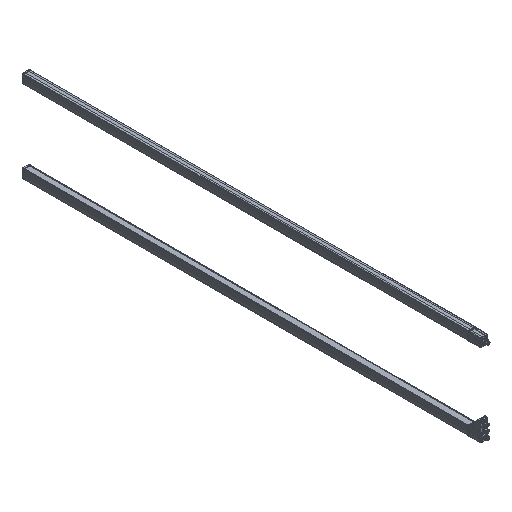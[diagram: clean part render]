
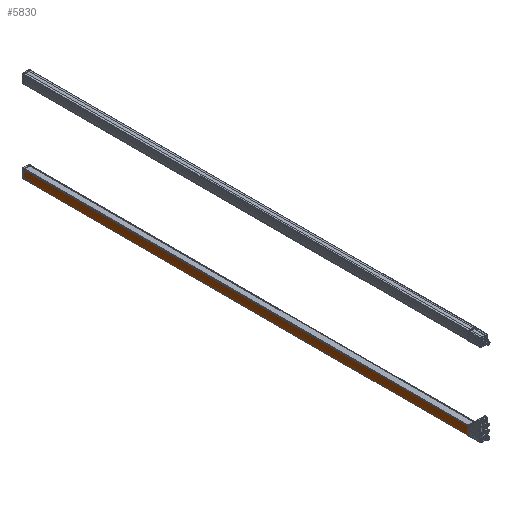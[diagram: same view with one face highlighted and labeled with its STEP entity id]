
A CAD part, isometric view. The second image highlights one B-rep face of the part: STEP entity #5830.
In plain terms, the highlighted cylindrical face has radius 250 mm (diameter 500 mm), a partial arc.
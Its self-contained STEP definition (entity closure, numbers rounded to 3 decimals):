
#5239=CYLINDRICAL_SURFACE('',#43258,250.);
#5830=ADVANCED_FACE('',(#9198),#5239,.T.);
#9198=FACE_OUTER_BOUND('',#11350,.T.);
#11350=EDGE_LOOP('',(#15797,#15798,#15799,#15800));
#14063=CIRCLE('',#43168,250.);
#14110=CIRCLE('',#43257,250.);
#15797=ORIENTED_EDGE('',*,*,#31576,.T.);
#15798=ORIENTED_EDGE('',*,*,#31700,.F.);
#15799=ORIENTED_EDGE('',*,*,#31701,.T.);
#15800=ORIENTED_EDGE('',*,*,#31698,.F.);
#27648=VERTEX_POINT('',#57020);
#27649=VERTEX_POINT('',#57022);
#27730=VERTEX_POINT('',#57266);
#27731=VERTEX_POINT('',#57270);
#31576=EDGE_CURVE('',#27649,#27648,#14063,.T.);
#31698=EDGE_CURVE('',#27649,#27730,#37677,.T.);
#31700=EDGE_CURVE('',#27731,#27648,#37678,.T.);
#31701=EDGE_CURVE('',#27731,#27730,#14110,.T.);
#37677=LINE('',#57265,#40394);
#37678=LINE('',#57269,#40395);
#40394=VECTOR('',#47083,1.);
#40395=VECTOR('',#47088,1.);
#43168=AXIS2_PLACEMENT_3D('',#57021,#46833,#46834);
#43257=AXIS2_PLACEMENT_3D('',#57271,#47089,#47090);
#43258=AXIS2_PLACEMENT_3D('',#57272,#47091,#47092);
#46833=DIRECTION('',(0.,0.,1.));
#46834=DIRECTION('',(-1.,0.,0.));
#47083=DIRECTION('',(0.,0.,1.));
#47088=DIRECTION('',(0.,0.,-1.));
#47089=DIRECTION('',(0.,0.,-1.));
#47090=DIRECTION('',(-0.998,0.067,0.));
#47091=DIRECTION('',(0.,0.,-1.));
#47092=DIRECTION('',(0.998,-0.067,0.));
#57020=CARTESIAN_POINT('',(13.731,16.86,-1760.));
#57021=CARTESIAN_POINT('',(-235.7,0.,-1760.));
#57022=CARTESIAN_POINT('',(13.793,-15.907,-1760.));
#57265=CARTESIAN_POINT('',(13.793,-15.907,-452.));
#57266=CARTESIAN_POINT('',(13.793,-15.907,0.));
#57269=CARTESIAN_POINT('',(13.731,16.86,0.));
#57270=CARTESIAN_POINT('',(13.731,16.86,0.));
#57271=CARTESIAN_POINT('',(-235.7,0.,0.));
#57272=CARTESIAN_POINT('',(-235.7,0.,0.));
